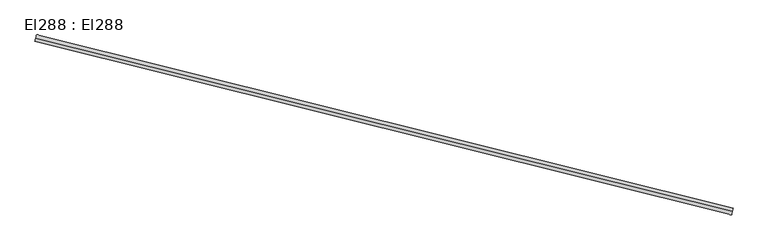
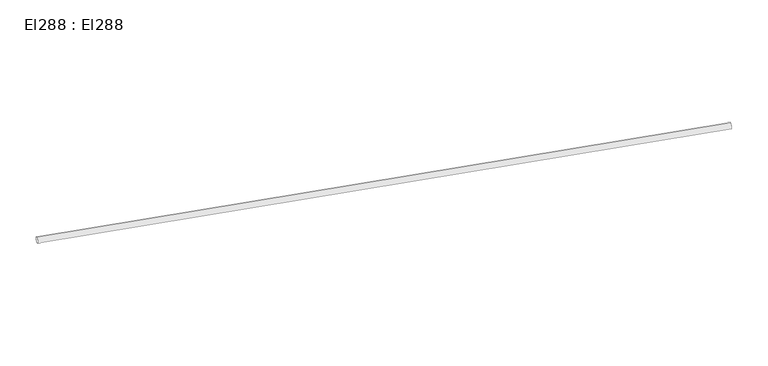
"""IFC4 building model written with IfcOpenShell, lengths in millimetres: cable carrier segment geometry, El288 : El288."""

from ifc_helpers import new_model, si_unit, point, frame, frame_2d, origin, place, context, project, spatial, circle_curve, trimmed, segment, composite_curve, outline, extrude, source, transform, mapped, element, save


def el288_el288_04e9d945(model_context):
    return source(origin(), model_context, "Body", "SweptSolid", [
        extrude(outline(composite_curve([segment(trimmed(circle_curve(frame_2d((0.0, -9.5)), 9.5), [point((0.0, -19.0))], [point((0.0, 0.0))], False, "CARTESIAN"), True, "CONTINUOUS"), segment(trimmed(circle_curve(frame_2d((0.0, -9.5)), 9.5), [point((0.0, 0.0))], [point((0.0, -19.0))], False, "CARTESIAN"), True, "CONTINUOUS")], self_intersect=False)), frame((6530.506025, 14278.2340771, 2959.5), z_axis=(-0.9704177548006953, 0.24143193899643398, 0.0), x_axis=(-0.24143193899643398, -0.9704177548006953, 0.0)), (0.0, 0.0, 1.0), 2021.82),
    ])


if __name__ == "__main__":
    model = new_model("IFC4")
    model_context = context("Model", 3, world=origin())
    ifc_project = project(units=[si_unit("LENGTHUNIT", "METRE", prefix="MILLI")], contexts=[model_context])
    site = spatial("IfcSite", under=ifc_project)
    building = spatial("IfcBuilding", under=site)
    placement = place(None, origin())
    el288_el288_shape = el288_el288_04e9d945(model_context)
    element("IfcCableCarrierSegment", 1, ObjectType="El288 : El288", at=placement, inside=building, context=model_context, shape_type="MappedRepresentation", body=[
        mapped(el288_el288_shape, transform((0.0, 0.0, 0.0), x_axis=(1.0, 0.0, 0.0), y_axis=(0.0, 1.0, 0.0), z_axis=(0.0, 0.0, 1.0))),
    ])
    save(model, "model.ifc")
